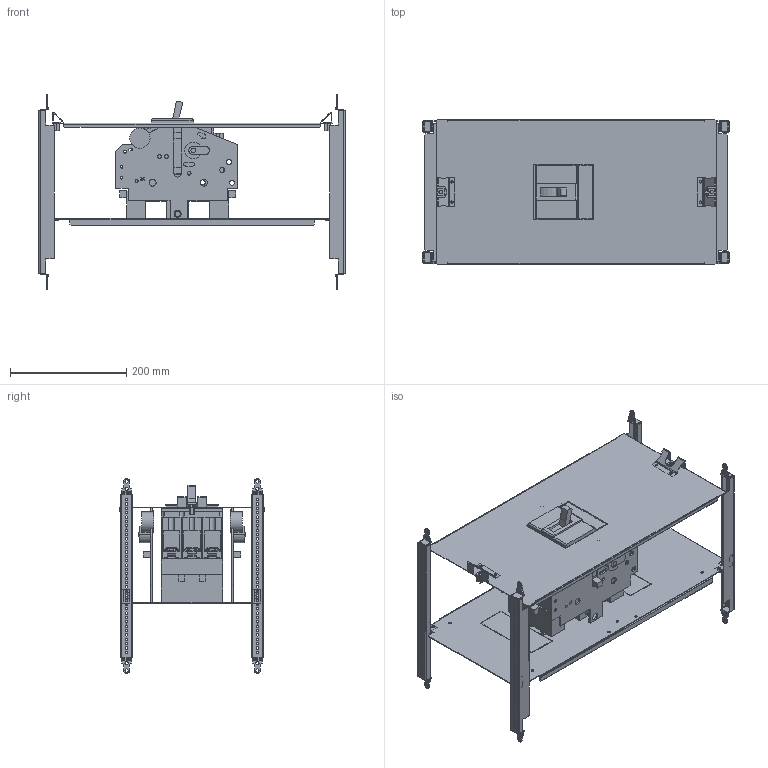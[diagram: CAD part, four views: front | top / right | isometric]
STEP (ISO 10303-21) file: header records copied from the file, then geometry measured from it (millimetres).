
FILE_DESCRIPTION(('CAx-IF Rec.Pracs.---Model Styling and Organization---1.2---2011-12-15','CAx-IF Rec.Pracs.---Geometric and Assembly Validation Properties---4.1---2014-06-16','CAx-IF Rec.Pracs.---PMI Polyline Presentation---2.0---2013-05-24'),'2;1');
FILE_NAME('R5PKIB7H61913 (W).stp','2021-07-29T03:06:16+03:00',(''),(''),'STEP Interface 4.4 by CT CoreTechnologie','3D_Evolution4.4 by CT CoreTechnologie','');
FILE_SCHEMA(('AUTOMOTIVE_DESIGN { 1 0 10303 214 1 1 1 1 }'));
Length unit declared in the file: millimetre
Products named in the file (1): R5PKIB7H61913 (W)
Bounding box: 526 x 248 x 335 mm (x, y, z)
Surface area: 1022648 mm2 (no closed solid volume)
Topology: 0 solids, 57 shells, 2215 faces, 6527 edges, 4436 vertices
Faces by surface type: plane 1389, cylinder 759, bspline 67
Entity records: 75738 total; most frequent: CARTESIAN_POINT 14151, ORIENTED_EDGE 13028, DIRECTION 12403, EDGE_CURVE 6517, VECTOR 4891, LINE 4891, VERTEX_POINT 4454, AXIS2_PLACEMENT_3D 3756
